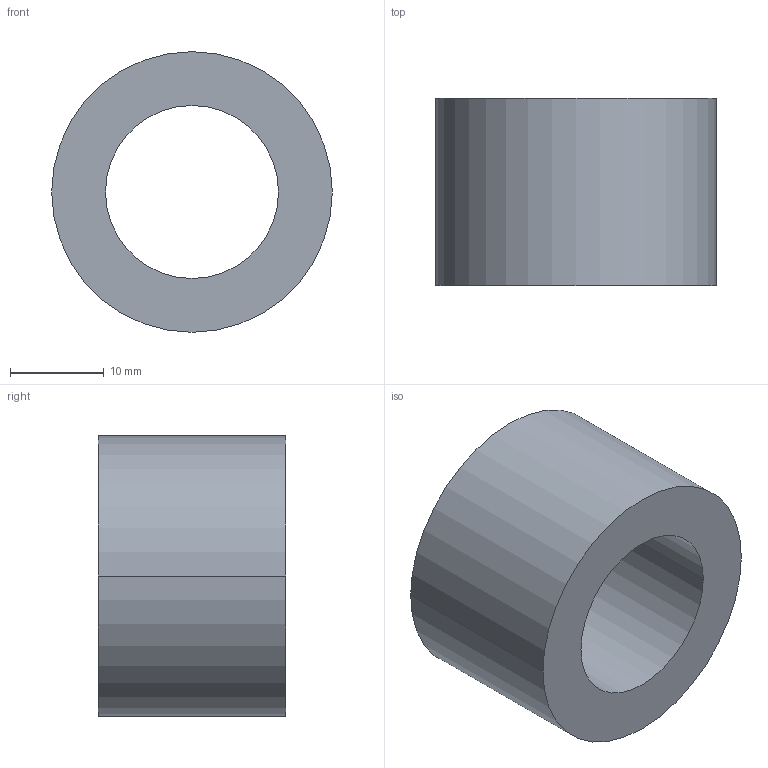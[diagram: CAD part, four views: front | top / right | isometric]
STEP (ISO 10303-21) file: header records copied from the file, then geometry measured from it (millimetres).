
FILE_DESCRIPTION (( 'STEP AP203' ), '1' );
FILE_NAME ('30800.WPP30H18.5.step', '2019-01-23T22:46:25', ( '' ), ( '' ), 'SwSTEP 2.0', 'SolidWorks 2017', '' );
FILE_SCHEMA (( 'CONFIG_CONTROL_DESIGN' ));
Length unit declared in the file: millimetre
Products named in the file (1): 30800.WPP30H18.5
Bounding box: 30 x 20 x 30 mm (x, y, z)
Volume: 8640.7 mm3; surface area: 3852.6 mm2
Topology: 1 solids, 1 shells, 8 faces, 16 edges, 10 vertices
Faces by surface type: cylinder 4, torus 2, plane 2
Entity records: 297 total; most frequent: DIRECTION 46, CARTESIAN_POINT 35, ORIENTED_EDGE 32, AXIS2_PLACEMENT_3D 21, EDGE_CURVE 16, CIRCLE 12, EDGE_LOOP 10, VERTEX_POINT 10
